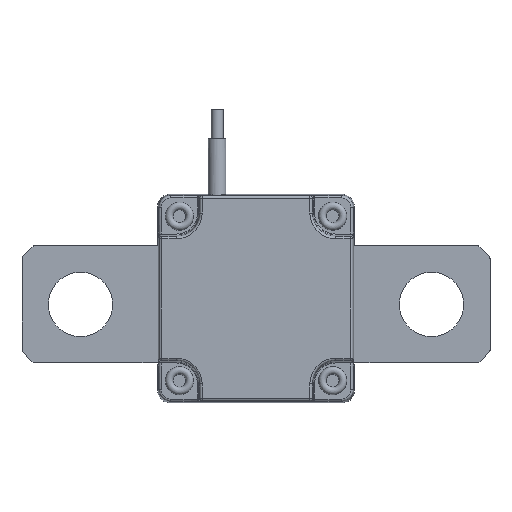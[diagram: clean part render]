
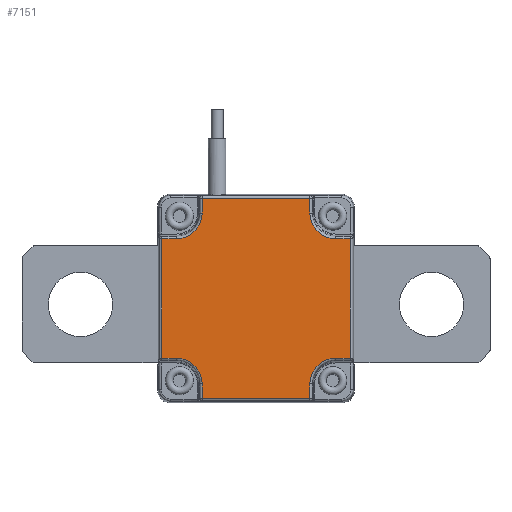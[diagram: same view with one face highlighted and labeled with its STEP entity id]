
A CAD part, top view. The second image highlights one B-rep face of the part: STEP entity #7151.
In plain terms, the highlighted planar face has unit normal (0, 0, 1).
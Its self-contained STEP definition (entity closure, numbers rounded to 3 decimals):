
#226=CIRCLE('',#7527,2.194);
#227=CIRCLE('',#7528,2.194);
#228=CIRCLE('',#7529,2.194);
#229=CIRCLE('',#7530,2.194);
#912=ORIENTED_EDGE('',*,*,#2178,.T.);
#913=ORIENTED_EDGE('',*,*,#2179,.T.);
#914=ORIENTED_EDGE('',*,*,#2180,.T.);
#915=ORIENTED_EDGE('',*,*,#2181,.T.);
#916=ORIENTED_EDGE('',*,*,#2182,.T.);
#917=ORIENTED_EDGE('',*,*,#2183,.T.);
#918=ORIENTED_EDGE('',*,*,#2184,.T.);
#919=ORIENTED_EDGE('',*,*,#2185,.T.);
#920=ORIENTED_EDGE('',*,*,#2186,.T.);
#921=ORIENTED_EDGE('',*,*,#2187,.T.);
#922=ORIENTED_EDGE('',*,*,#2188,.T.);
#923=ORIENTED_EDGE('',*,*,#2189,.T.);
#924=ORIENTED_EDGE('',*,*,#2115,.T.);
#925=ORIENTED_EDGE('',*,*,#2190,.T.);
#926=ORIENTED_EDGE('',*,*,#2191,.T.);
#927=ORIENTED_EDGE('',*,*,#2192,.T.);
#2115=EDGE_CURVE('',#2770,#2771,#3221,.T.);
#2178=EDGE_CURVE('',#2808,#2809,#3252,.T.);
#2179=EDGE_CURVE('',#2809,#2810,#3253,.T.);
#2180=EDGE_CURVE('',#2810,#2811,#226,.T.);
#2181=EDGE_CURVE('',#2811,#2812,#3254,.T.);
#2182=EDGE_CURVE('',#2812,#2813,#3255,.T.);
#2183=EDGE_CURVE('',#2813,#2814,#3256,.T.);
#2184=EDGE_CURVE('',#2814,#2815,#227,.T.);
#2185=EDGE_CURVE('',#2815,#2816,#3257,.T.);
#2186=EDGE_CURVE('',#2816,#2817,#3258,.T.);
#2187=EDGE_CURVE('',#2817,#2818,#3259,.T.);
#2188=EDGE_CURVE('',#2818,#2819,#228,.T.);
#2189=EDGE_CURVE('',#2819,#2770,#3260,.T.);
#2190=EDGE_CURVE('',#2771,#2820,#3261,.T.);
#2191=EDGE_CURVE('',#2820,#2821,#229,.T.);
#2192=EDGE_CURVE('',#2821,#2808,#3262,.T.);
#2770=VERTEX_POINT('',#9865);
#2771=VERTEX_POINT('',#9867);
#2808=VERTEX_POINT('',#10174);
#2809=VERTEX_POINT('',#10175);
#2810=VERTEX_POINT('',#10177);
#2811=VERTEX_POINT('',#10179);
#2812=VERTEX_POINT('',#10181);
#2813=VERTEX_POINT('',#10183);
#2814=VERTEX_POINT('',#10185);
#2815=VERTEX_POINT('',#10187);
#2816=VERTEX_POINT('',#10189);
#2817=VERTEX_POINT('',#10191);
#2818=VERTEX_POINT('',#10193);
#2819=VERTEX_POINT('',#10195);
#2820=VERTEX_POINT('',#10198);
#2821=VERTEX_POINT('',#10200);
#3221=LINE('',#9868,#3591);
#3252=LINE('',#10173,#3622);
#3253=LINE('',#10176,#3623);
#3254=LINE('',#10180,#3624);
#3255=LINE('',#10182,#3625);
#3256=LINE('',#10184,#3626);
#3257=LINE('',#10188,#3627);
#3258=LINE('',#10190,#3628);
#3259=LINE('',#10192,#3629);
#3260=LINE('',#10196,#3630);
#3261=LINE('',#10197,#3631);
#3262=LINE('',#10201,#3632);
#3591=VECTOR('',#8238,1000.);
#3622=VECTOR('',#8347,1000.);
#3623=VECTOR('',#8348,1000.);
#3624=VECTOR('',#8351,1000.);
#3625=VECTOR('',#8352,1000.);
#3626=VECTOR('',#8353,1000.);
#3627=VECTOR('',#8356,1000.);
#3628=VECTOR('',#8357,1000.);
#3629=VECTOR('',#8358,1000.);
#3630=VECTOR('',#8361,1000.);
#3631=VECTOR('',#8362,1000.);
#3632=VECTOR('',#8365,1000.);
#3907=EDGE_LOOP('',(#912,#913,#914,#915,#916,#917,#918,#919,#920,#921,#922,
#923,#924,#925,#926,#927));
#4311=FACE_BOUND('',#3907,.T.);
#4679=PLANE('',#7526);
#7151=ADVANCED_FACE('',(#4311),#4679,.F.);
#7526=AXIS2_PLACEMENT_3D('',#10172,#8345,#8346);
#7527=AXIS2_PLACEMENT_3D('',#10178,#8349,#8350);
#7528=AXIS2_PLACEMENT_3D('',#10186,#8354,#8355);
#7529=AXIS2_PLACEMENT_3D('',#10194,#8359,#8360);
#7530=AXIS2_PLACEMENT_3D('',#10199,#8363,#8364);
#8238=DIRECTION('',(0.,1.,0.));
#8345=DIRECTION('',(0.,0.,-1.));
#8346=DIRECTION('',(1.,0.,0.));
#8347=DIRECTION('',(-1.,0.,0.));
#8348=DIRECTION('',(0.,-1.,0.));
#8349=DIRECTION('',(0.,0.,-1.));
#8350=DIRECTION('',(1.,0.,0.));
#8351=DIRECTION('',(-1.,0.,0.));
#8352=DIRECTION('',(0.,-1.,0.));
#8353=DIRECTION('',(1.,0.,0.));
#8354=DIRECTION('',(0.,0.,-1.));
#8355=DIRECTION('',(0.,1.,0.));
#8356=DIRECTION('',(0.,-1.,0.));
#8357=DIRECTION('',(1.,0.,0.));
#8358=DIRECTION('',(0.,1.,0.));
#8359=DIRECTION('',(0.,0.,-1.));
#8360=DIRECTION('',(-1.,0.,0.));
#8361=DIRECTION('',(1.,0.,0.));
#8362=DIRECTION('',(-1.,0.,0.));
#8363=DIRECTION('',(0.,0.,-1.));
#8364=DIRECTION('',(0.,-1.,0.));
#8365=DIRECTION('',(0.,1.,0.));
#9865=CARTESIAN_POINT('',(8.067,-4.606,4.));
#9867=CARTESIAN_POINT('',(8.067,5.606,4.));
#9868=CARTESIAN_POINT('',(8.067,-4.606,4.));
#10172=CARTESIAN_POINT('',(0.,0.5,4.));
#10173=CARTESIAN_POINT('',(4.606,9.067,4.));
#10174=CARTESIAN_POINT('',(4.606,9.067,4.));
#10175=CARTESIAN_POINT('',(-4.606,9.067,4.));
#10176=CARTESIAN_POINT('',(-4.606,9.067,4.));
#10177=CARTESIAN_POINT('',(-4.606,7.8,4.));
#10178=CARTESIAN_POINT('',(-6.8,7.8,4.));
#10179=CARTESIAN_POINT('',(-6.8,5.606,4.));
#10180=CARTESIAN_POINT('',(-6.7,5.606,4.));
#10181=CARTESIAN_POINT('',(-8.067,5.606,4.));
#10182=CARTESIAN_POINT('',(-8.067,5.606,4.));
#10183=CARTESIAN_POINT('',(-8.067,-4.606,4.));
#10184=CARTESIAN_POINT('',(-8.067,-4.606,4.));
#10185=CARTESIAN_POINT('',(-6.8,-4.606,4.));
#10186=CARTESIAN_POINT('',(-6.8,-6.8,4.));
#10187=CARTESIAN_POINT('',(-4.606,-6.8,4.));
#10188=CARTESIAN_POINT('',(-4.606,-6.7,4.));
#10189=CARTESIAN_POINT('',(-4.606,-8.067,4.));
#10190=CARTESIAN_POINT('',(-4.606,-8.067,4.));
#10191=CARTESIAN_POINT('',(4.606,-8.067,4.));
#10192=CARTESIAN_POINT('',(4.606,-8.067,4.));
#10193=CARTESIAN_POINT('',(4.606,-6.8,4.));
#10194=CARTESIAN_POINT('',(6.8,-6.8,4.));
#10195=CARTESIAN_POINT('',(6.8,-4.606,4.));
#10196=CARTESIAN_POINT('',(6.7,-4.606,4.));
#10197=CARTESIAN_POINT('',(8.067,5.606,4.));
#10198=CARTESIAN_POINT('',(6.8,5.606,4.));
#10199=CARTESIAN_POINT('',(6.8,7.8,4.));
#10200=CARTESIAN_POINT('',(4.606,7.8,4.));
#10201=CARTESIAN_POINT('',(4.606,7.7,4.));
